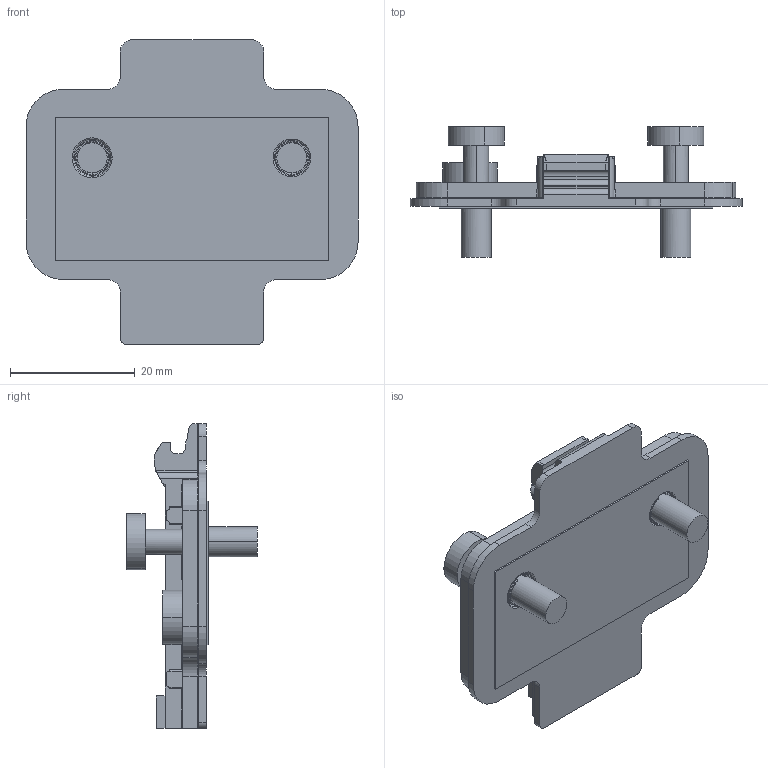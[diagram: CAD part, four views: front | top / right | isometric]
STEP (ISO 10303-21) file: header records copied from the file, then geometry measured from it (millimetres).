
FILE_DESCRIPTION (( 'STEP AP203' ), '1' );
FILE_NAME ('81T01TQA.STEP', '2024-07-27T02:16:33', ( '微软用户' ), ( '微软中国' ), 'SwSTEP 2.0', 'SolidWorks 2021', '' );
FILE_SCHEMA (( 'CONFIG_CONTROL_DESIGN' ));
Length unit declared in the file: millimetre
Products named in the file (1): 81T01TQA
Bounding box: 53.2 x 20.97 x 48.85 mm (x, y, z)
Volume: 9658.1 mm3; surface area: 6634.5 mm2
Topology: 1 solids, 1 shells, 550 faces, 1450 edges, 892 vertices
Faces by surface type: cylinder 219, plane 164, torus 95, bspline 40, sphere 20, cone 12
Entity records: 18652 total; most frequent: CARTESIAN_POINT 5301, ORIENTED_EDGE 2860, DIRECTION 2797, EDGE_CURVE 1430, AXIS2_PLACEMENT_3D 1104, VERTEX_POINT 892, CIRCLE 593, LINE 589
